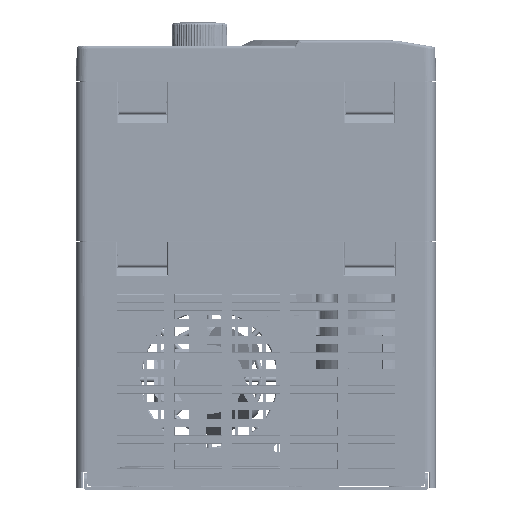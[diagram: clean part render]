
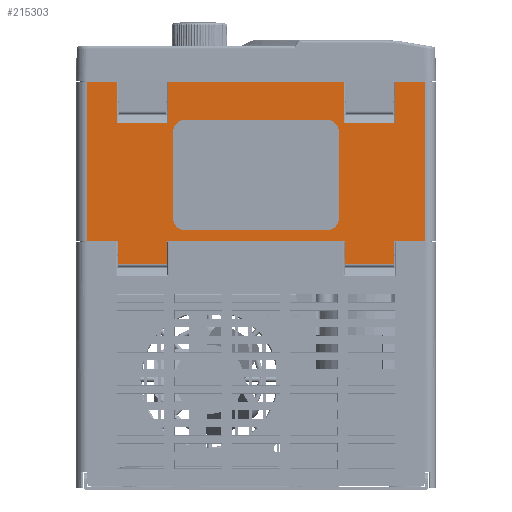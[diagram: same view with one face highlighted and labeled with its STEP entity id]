
A CAD part, front view. The second image highlights one B-rep face of the part: STEP entity #215303.
In plain terms, the highlighted planar face has unit normal (0, -1, 0) as drawn and (0, 1, 0) by its records, which use the part's own axes.
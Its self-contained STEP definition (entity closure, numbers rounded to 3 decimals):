
#143093=DIRECTION('',(-1.,0.,0.));
#143094=VECTOR('',#143093,11.05);
#143095=CARTESIAN_POINT('',(-49.95,92.5,0.));
#143096=LINE('',#143095,#143094);
#143153=DIRECTION('',(-1.,0.,0.));
#143154=VECTOR('',#143153,11.05);
#143155=CARTESIAN_POINT('',(61.,92.5,0.));
#143156=LINE('',#143155,#143154);
#143181=DIRECTION('',(-1.,0.,0.));
#143182=VECTOR('',#143181,64.5);
#143183=CARTESIAN_POINT('',(32.25,92.5,0.));
#143184=LINE('',#143183,#143182);
#148717=DIRECTION('',(-1.,0.,0.));
#148718=VECTOR('',#148717,10.721);
#148719=CARTESIAN_POINT('',(61.,92.5,57.7));
#148720=LINE('',#148719,#148718);
#148885=DIRECTION('',(-1.,0.,0.));
#148886=VECTOR('',#148885,63.443);
#148887=CARTESIAN_POINT('',(31.721,92.5,57.7));
#148888=LINE('',#148887,#148886);
#149024=DIRECTION('',(-1.,0.,0.));
#149025=VECTOR('',#149024,10.721);
#149026=CARTESIAN_POINT('',(-50.279,92.5,57.7));
#149027=LINE('',#149026,#149025);
#149739=DIRECTION('',(0.,0.,-1.));
#149740=VECTOR('',#149739,31.);
#149741=CARTESIAN_POINT('',(30.005,92.5,39.5));
#149742=LINE('',#149741,#149740);
#149746=DIRECTION('',(-1.,0.,0.));
#149747=VECTOR('',#149746,51.);
#149748=CARTESIAN_POINT('',(25.5,92.5,3.995));
#149749=LINE('',#149748,#149747);
#149753=DIRECTION('',(0.,0.,1.));
#149754=VECTOR('',#149753,31.);
#149755=CARTESIAN_POINT('',(-30.005,92.5,8.5));
#149756=LINE('',#149755,#149754);
#149760=DIRECTION('',(1.,0.,0.));
#149761=VECTOR('',#149760,51.);
#149762=CARTESIAN_POINT('',(-25.5,92.5,44.005));
#149763=LINE('',#149762,#149761);
#149767=DIRECTION('',(1.,0.,0.));
#149768=VECTOR('',#149767,18.557);
#149769=CARTESIAN_POINT('',(31.721,92.5,42.693));
#149770=LINE('',#149769,#149768);
#149774=DIRECTION('',(0.,0.,1.));
#149775=VECTOR('',#149774,15.007);
#149776=CARTESIAN_POINT('',(31.721,92.5,42.693));
#149777=LINE('',#149776,#149775);
#149781=DIRECTION('',(0.,0.,-1.));
#149782=VECTOR('',#149781,15.007);
#149783=CARTESIAN_POINT('',(-31.721,92.5,57.7));
#149784=LINE('',#149783,#149782);
#149788=DIRECTION('',(1.,0.,0.));
#149789=VECTOR('',#149788,18.557);
#149790=CARTESIAN_POINT('',(-50.279,92.5,42.693));
#149791=LINE('',#149790,#149789);
#149795=DIRECTION('',(0.,0.,1.));
#149796=VECTOR('',#149795,15.007);
#149797=CARTESIAN_POINT('',(-50.279,92.5,42.693));
#149798=LINE('',#149797,#149796);
#149802=DIRECTION('',(0.,0.,-1.));
#149803=VECTOR('',#149802,57.7);
#149804=CARTESIAN_POINT('',(-61.,92.5,57.7));
#149805=LINE('',#149804,#149803);
#149809=DIRECTION('',(0.,0.,1.));
#149810=VECTOR('',#149809,8.3);
#149811=CARTESIAN_POINT('',(-49.95,92.5,-8.3));
#149812=LINE('',#149811,#149810);
#149816=DIRECTION('',(-1.,0.,0.));
#149817=VECTOR('',#149816,17.7);
#149818=CARTESIAN_POINT('',(-32.25,92.5,-8.3));
#149819=LINE('',#149818,#149817);
#149823=DIRECTION('',(0.,0.,-1.));
#149824=VECTOR('',#149823,8.3);
#149825=CARTESIAN_POINT('',(-32.25,92.5,0.));
#149826=LINE('',#149825,#149824);
#149830=DIRECTION('',(0.,0.,1.));
#149831=VECTOR('',#149830,8.3);
#149832=CARTESIAN_POINT('',(32.25,92.5,-8.3));
#149833=LINE('',#149832,#149831);
#149837=DIRECTION('',(-1.,0.,0.));
#149838=VECTOR('',#149837,17.7);
#149839=CARTESIAN_POINT('',(49.95,92.5,-8.3));
#149840=LINE('',#149839,#149838);
#149844=DIRECTION('',(0.,0.,-1.));
#149845=VECTOR('',#149844,8.3);
#149846=CARTESIAN_POINT('',(49.95,92.5,0.));
#149847=LINE('',#149846,#149845);
#149851=DIRECTION('',(0.,0.,-1.));
#149852=VECTOR('',#149851,57.7);
#149853=CARTESIAN_POINT('',(61.,92.5,57.7));
#149854=LINE('',#149853,#149852);
#149858=DIRECTION('',(0.,0.,-1.));
#149859=VECTOR('',#149858,15.007);
#149860=CARTESIAN_POINT('',(50.279,92.5,57.7));
#149861=LINE('',#149860,#149859);
#149879=CARTESIAN_POINT('',(25.5,92.5,8.5));
#149880=DIRECTION('',(0.,-1.,0.));
#149881=DIRECTION('',(0.,0.,-1.));
#149882=AXIS2_PLACEMENT_3D('',#149879,#149880,#149881);
#149947=CARTESIAN_POINT('',(-25.5,92.5,8.5));
#149948=DIRECTION('',(0.,-1.,0.));
#149949=DIRECTION('',(-1.,0.,0.));
#149950=AXIS2_PLACEMENT_3D('',#149947,#149948,#149949);
#149969=CARTESIAN_POINT('',(-25.5,92.5,39.5));
#149970=DIRECTION('',(0.,-1.,0.));
#149971=DIRECTION('',(0.,0.,1.));
#149972=AXIS2_PLACEMENT_3D('',#149969,#149970,#149971);
#149991=CARTESIAN_POINT('',(25.5,92.5,39.5));
#149992=DIRECTION('',(0.,-1.,0.));
#149993=DIRECTION('',(1.,0.,0.));
#149994=AXIS2_PLACEMENT_3D('',#149991,#149992,#149993);
#200612=CARTESIAN_POINT('',(-61.,92.5,0.));
#200614=VERTEX_POINT('',#200612);
#200615=CARTESIAN_POINT('',(-61.,92.5,57.7));
#200616=VERTEX_POINT('',#200615);
#200619=CARTESIAN_POINT('',(61.,92.5,0.));
#200621=VERTEX_POINT('',#200619);
#200625=CARTESIAN_POINT('',(61.,92.5,57.7));
#200626=VERTEX_POINT('',#200625);
#203342=CARTESIAN_POINT('',(32.25,92.5,0.));
#203343=CARTESIAN_POINT('',(-32.25,92.5,0.));
#203344=VERTEX_POINT('',#203342);
#203345=VERTEX_POINT('',#203343);
#203350=CARTESIAN_POINT('',(49.95,92.5,0.));
#203351=VERTEX_POINT('',#203350);
#203352=CARTESIAN_POINT('',(-49.95,92.5,0.));
#203353=VERTEX_POINT('',#203352);
#203358=CARTESIAN_POINT('',(-49.95,92.5,-8.3));
#203360=VERTEX_POINT('',#203358);
#203364=CARTESIAN_POINT('',(-32.25,92.5,-8.3));
#203365=VERTEX_POINT('',#203364);
#203366=CARTESIAN_POINT('',(32.25,92.5,-8.3));
#203368=VERTEX_POINT('',#203366);
#203372=CARTESIAN_POINT('',(49.95,92.5,-8.3));
#203373=VERTEX_POINT('',#203372);
#203382=CARTESIAN_POINT('',(31.721,92.5,42.693));
#203383=CARTESIAN_POINT('',(50.279,92.5,42.693));
#203384=VERTEX_POINT('',#203382);
#203385=VERTEX_POINT('',#203383);
#203386=CARTESIAN_POINT('',(-50.279,92.5,42.693));
#203387=CARTESIAN_POINT('',(-31.721,92.5,42.693));
#203388=VERTEX_POINT('',#203386);
#203389=VERTEX_POINT('',#203387);
#209996=CARTESIAN_POINT('',(50.279,92.5,57.7));
#209998=VERTEX_POINT('',#209996);
#210001=CARTESIAN_POINT('',(31.721,92.5,57.7));
#210003=VERTEX_POINT('',#210001);
#210004=CARTESIAN_POINT('',(-31.721,92.5,57.7));
#210006=VERTEX_POINT('',#210004);
#210009=CARTESIAN_POINT('',(-50.279,92.5,57.7));
#210011=VERTEX_POINT('',#210009);
#210016=CARTESIAN_POINT('',(-30.005,92.5,8.5));
#210017=VERTEX_POINT('',#210016);
#210018=CARTESIAN_POINT('',(-25.5,92.5,3.995));
#210019=VERTEX_POINT('',#210018);
#210024=CARTESIAN_POINT('',(25.5,92.5,3.995));
#210025=VERTEX_POINT('',#210024);
#210026=CARTESIAN_POINT('',(30.005,92.5,8.5));
#210027=VERTEX_POINT('',#210026);
#210032=CARTESIAN_POINT('',(30.005,92.5,39.5));
#210033=VERTEX_POINT('',#210032);
#210034=CARTESIAN_POINT('',(25.5,92.5,44.005));
#210035=VERTEX_POINT('',#210034);
#210040=CARTESIAN_POINT('',(-25.5,92.5,44.005));
#210041=VERTEX_POINT('',#210040);
#210042=CARTESIAN_POINT('',(-30.005,92.5,39.5));
#210043=VERTEX_POINT('',#210042);
#215249=CARTESIAN_POINT('',(65.,92.5,0.));
#215250=DIRECTION('',(0.,1.,0.));
#215251=DIRECTION('',(-1.,0.,0.));
#215252=AXIS2_PLACEMENT_3D('',#215249,#215250,#215251);
#215253=PLANE('',#215252);
#215255=ORIENTED_EDGE('',*,*,#215254,.F.);
#215257=ORIENTED_EDGE('',*,*,#215256,.T.);
#215258=ORIENTED_EDGE('',*,*,#214656,.T.);
#215260=ORIENTED_EDGE('',*,*,#215259,.T.);
#215262=ORIENTED_EDGE('',*,*,#215261,.F.);
#215263=ORIENTED_EDGE('',*,*,#215242,.T.);
#215264=ORIENTED_EDGE('',*,*,#214707,.T.);
#215266=ORIENTED_EDGE('',*,*,#215265,.T.);
#215267=ORIENTED_EDGE('',*,*,#211045,.F.);
#215268=ORIENTED_EDGE('',*,*,#211240,.F.);
#215270=ORIENTED_EDGE('',*,*,#215269,.F.);
#215271=ORIENTED_EDGE('',*,*,#211289,.F.);
#215272=ORIENTED_EDGE('',*,*,#211077,.F.);
#215274=ORIENTED_EDGE('',*,*,#215273,.F.);
#215276=ORIENTED_EDGE('',*,*,#215275,.F.);
#215277=ORIENTED_EDGE('',*,*,#211114,.F.);
#215278=ORIENTED_EDGE('',*,*,#211061,.F.);
#215280=ORIENTED_EDGE('',*,*,#215279,.F.);
#215281=ORIENTED_EDGE('',*,*,#214602,.T.);
#215282=ORIENTED_EDGE('',*,*,#214721,.T.);
#215283=EDGE_LOOP('',(#215255,#215257,#215258,#215260,#215262,#215263,#215264,
#215266,#215267,#215268,#215270,#215271,#215272,#215274,#215276,#215277,#215278,
#215280,#215281,#215282));
#215284=FACE_OUTER_BOUND('',#215283,.F.);
#215286=ORIENTED_EDGE('',*,*,#215285,.T.);
#215288=ORIENTED_EDGE('',*,*,#215287,.F.);
#215290=ORIENTED_EDGE('',*,*,#215289,.T.);
#215292=ORIENTED_EDGE('',*,*,#215291,.F.);
#215294=ORIENTED_EDGE('',*,*,#215293,.T.);
#215296=ORIENTED_EDGE('',*,*,#215295,.F.);
#215298=ORIENTED_EDGE('',*,*,#215297,.T.);
#215300=ORIENTED_EDGE('',*,*,#215299,.F.);
#215301=EDGE_LOOP('',(#215286,#215288,#215290,#215292,#215294,#215296,#215298,
#215300));
#215302=FACE_BOUND('',#215301,.F.);
#215303=ADVANCED_FACE('',(#215284,#215302),#215253,.T.);
#149883=CIRCLE('',#149882,4.505);
#149951=CIRCLE('',#149950,4.505);
#149973=CIRCLE('',#149972,4.505);
#149995=CIRCLE('',#149994,4.505);
#211045=EDGE_CURVE('',#203353,#200614,#143096,.T.);
#211061=EDGE_CURVE('',#200621,#203351,#143156,.T.);
#211077=EDGE_CURVE('',#203344,#203345,#143184,.T.);
#211114=EDGE_CURVE('',#203351,#203373,#149847,.T.);
#211240=EDGE_CURVE('',#203360,#203353,#149812,.T.);
#211289=EDGE_CURVE('',#203345,#203365,#149826,.T.);
#214602=EDGE_CURVE('',#200626,#209998,#148720,.T.);
#214656=EDGE_CURVE('',#210003,#210006,#148888,.T.);
#214707=EDGE_CURVE('',#210011,#200616,#149027,.T.);
#214721=EDGE_CURVE('',#209998,#203385,#149861,.T.);
#215242=EDGE_CURVE('',#203388,#210011,#149798,.T.);
#215254=EDGE_CURVE('',#203384,#203385,#149770,.T.);
#215256=EDGE_CURVE('',#203384,#210003,#149777,.T.);
#215259=EDGE_CURVE('',#210006,#203389,#149784,.T.);
#215261=EDGE_CURVE('',#203388,#203389,#149791,.T.);
#215265=EDGE_CURVE('',#200616,#200614,#149805,.T.);
#215269=EDGE_CURVE('',#203365,#203360,#149819,.T.);
#215273=EDGE_CURVE('',#203368,#203344,#149833,.T.);
#215275=EDGE_CURVE('',#203373,#203368,#149840,.T.);
#215279=EDGE_CURVE('',#200626,#200621,#149854,.T.);
#215285=EDGE_CURVE('',#210033,#210027,#149742,.T.);
#215287=EDGE_CURVE('',#210025,#210027,#149883,.T.);
#215289=EDGE_CURVE('',#210025,#210019,#149749,.T.);
#215291=EDGE_CURVE('',#210017,#210019,#149951,.T.);
#215293=EDGE_CURVE('',#210017,#210043,#149756,.T.);
#215295=EDGE_CURVE('',#210041,#210043,#149973,.T.);
#215297=EDGE_CURVE('',#210041,#210035,#149763,.T.);
#215299=EDGE_CURVE('',#210033,#210035,#149995,.T.);
